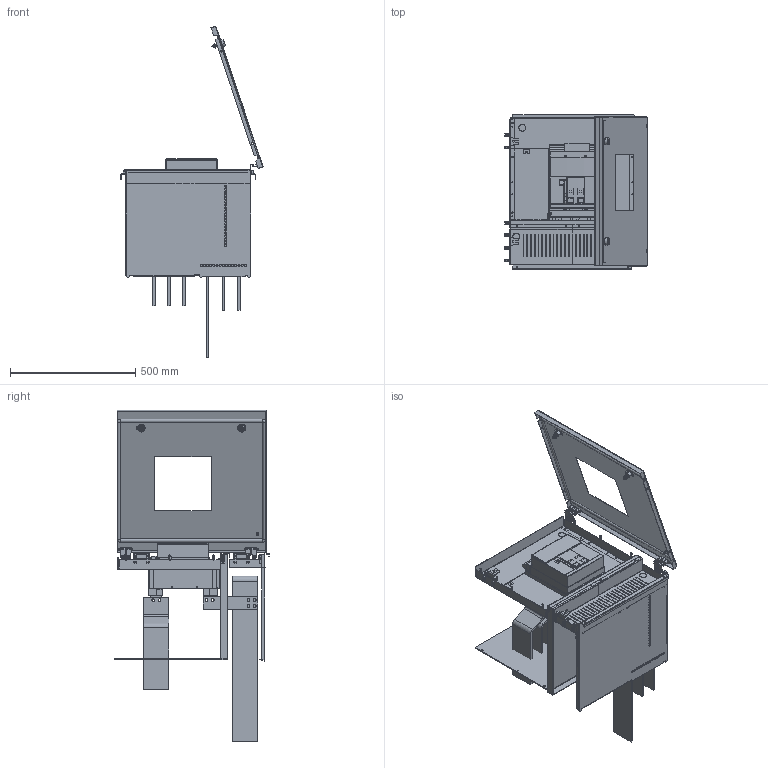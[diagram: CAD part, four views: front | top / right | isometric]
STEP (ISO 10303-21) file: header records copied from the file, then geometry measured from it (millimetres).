
FILE_DESCRIPTION(('CAx-IF Rec.Pracs.---Model Styling and Organization---1.2---2011-12-15','CAx-IF Rec.Pracs.---Geometric and Assembly Validation Properties---4.1---2014-06-16','CAx-IF Rec.Pracs.---PMI Polyline Presentation---2.0---2013-05-24'),'2;1');
FILE_NAME('R5M212IB2H61119R.stp','2021-05-05T12:45:02+03:00',(''),(''),'STEP Interface 4.4 by CT CoreTechnologie','3D_Evolution4.4 by CT CoreTechnologie','');
FILE_SCHEMA(('AUTOMOTIVE_DESIGN { 1 0 10303 214 1 1 1 1 }'));
Length unit declared in the file: millimetre
Products named in the file (37): R5M212IB2H61119R(äâóñòîðîííèé); RB.1428.00.00.0_-00; ABBT3F_-00; RB.1427.00.00.0_-00; AC00C485; M6 x 16-DIN 7991 ISR_thread; ABBDR2F_-00; RB.1233.00.00.0_-00; ABBDR3F_-00; RB.1429.00.00.0_-01; RB.1226.00.00.0_-00; ABBDR1F_-00; ABBOF2_-00; RB.1227.00.00.0_-00; RB.1589.00.00.0_-00 (Emax F); ABBT1F_-00; RB.1429.00.00.0_-00; AC00C745; SACE Emax 1.2 Fixed; E1.2 III F; E1.2 III F FIXING PONTS; E1.2 III F TERMINALS VR; ABBT2F_-00; RB.1430.00.00.0 ÑÁ_-00 (Emax E1.2 F); RB.1430.00.01.0_-00 (Emax E1.2 F); PF 7x14 MCC2.0_0600x0600; AC00C266; AC00C061_AC00C061; Ì6õ12-A5100231_straight; RB.0687.00.00.1_-00; RB.0116.00.00.3_-00; ABBOF1_-00; RB.1227.00.00.0_-01; MS737-1-1(1); MS737-1-1 Z_ ªàëâ; MS737-1-1 stop_fixed; MS737-1-1(2)
Assembly tree (69 placements, depth 3):
  R5M212IB2H61119R(äâóñòîðîííèé)
    RB.1428.00.00.0_-00
    ABBT3F_-00
    RB.1427.00.00.0_-00  x2
    AC00C485  x12
    M6 x 16-DIN 7991 ISR_thread  x11
    ABBDR2F_-00
    RB.1233.00.00.0_-00
    ABBDR3F_-00
    RB.1429.00.00.0_-01
    RB.1226.00.00.0_-00
    ABBDR1F_-00
    ABBOF2_-00  x3
    RB.1227.00.00.0_-00
    RB.1589.00.00.0_-00 (Emax F)
    ABBT1F_-00
    RB.1429.00.00.0_-00
    AC00C745  x2
    SACE Emax 1.2 Fixed
      E1.2 III F
      E1.2 III F FIXING PONTS
      E1.2 III F TERMINALS VR  x2
    ABBT2F_-00
    RB.1430.00.00.0 ÑÁ_-00 (Emax E1.2 F)
      RB.1430.00.01.0_-00 (Emax E1.2 F)
      PF 7x14 MCC2.0_0600x0600
      AC00C266  x2
      AC00C061_AC00C061
      Ì6õ12-A5100231_straight
    RB.0687.00.00.1_-00  x2
    RB.0116.00.00.3_-00  x2
    ABBOF1_-00  x3
    RB.1227.00.00.0_-01
    MS737-1-1(1)
      MS737-1-1 Z_ ªàëâ
      MS737-1-1 stop_fixed
    MS737-1-1(2)
      MS737-1-1 Z_ ªàëâ
      MS737-1-1 stop_fixed
Bounding box: 567.28 x 617 x 1324.19 mm (x, y, z)
Surface area: 4673963.7 mm2 (no closed solid volume)
Topology: 0 solids, 114 shells, 4338 faces, 11572 edges, 7414 vertices
Faces by surface type: plane 2422, cylinder 1475, bspline 441
Entity records: 85602 total; most frequent: CARTESIAN_POINT 19348, ORIENTED_EDGE 13481, DIRECTION 13060, EDGE_CURVE 6746, VECTOR 4912, LINE 4912, VERTEX_POINT 4400, AXIS2_PLACEMENT_3D 4074
